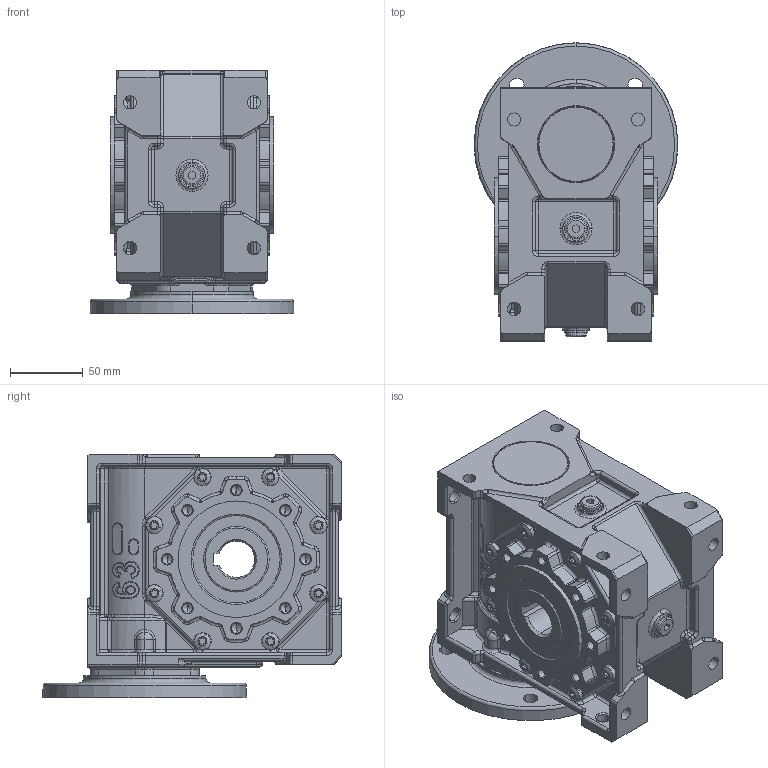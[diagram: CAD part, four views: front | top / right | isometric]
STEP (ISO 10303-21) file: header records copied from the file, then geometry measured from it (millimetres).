
FILE_DESCRIPTION (( 'STEP AP214' ), '1' );
FILE_NAME ('MKT63-FTRL-90-115.STEP', '2006-05-09T11:42:57', ( '' ), ( '' ), 'SwSTEP 2.0', 'SolidWorks 2004146', '' );
FILE_SCHEMA (( 'AUTOMOTIVE_DESIGN' ));
Length unit declared in the file: millimetre
Products named in the file (4): Skrin MKT63_MKT63 AP90; D6912_Šroub DIN 6912 - M6x25; Pøíruba MRT80 kulatá _95-115-140; MKT63-FTRL-90-115
Assembly tree (8 placements, depth 2):
  MKT63-FTRL-90-115
    Pøíruba MRT80 kulatá _95-115-140
    D6912_Šroub DIN 6912 - M6x25  x6
    Skrin MKT63_MKT63 AP90
Bounding box: 140 x 205 x 167 mm (x, y, z)
Volume: 2078326.1 mm3; surface area: 225791.1 mm2
Topology: 8 solids, 8 shells, 2017 faces, 4820 edges, 2803 vertices
Faces by surface type: cylinder 792, plane 368, torus 325, cone 220, bspline 182, sphere 130
Entity records: 180840 total; most frequent: CARTESIAN_POINT 134523, DIRECTION 9460, ORIENTED_EDGE 8730, EDGE_CURVE 4365, AXIS2_PLACEMENT_3D 3955, VERTEX_POINT 2628, CIRCLE 2294, EDGE_LOOP 1973
